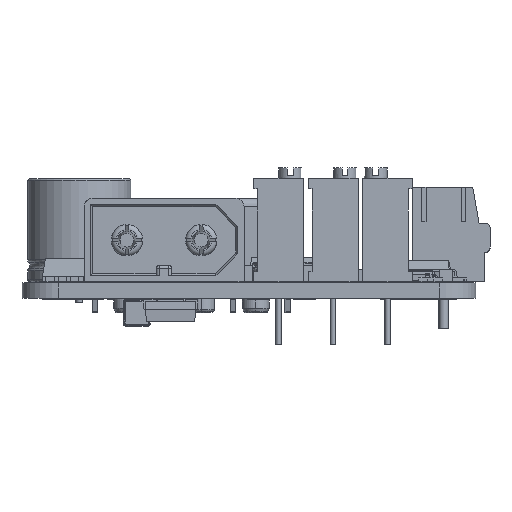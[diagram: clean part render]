
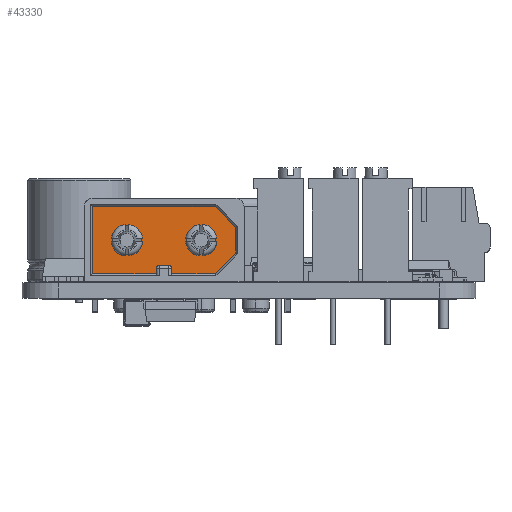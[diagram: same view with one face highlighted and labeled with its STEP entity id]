
A CAD part, left-side view. The second image highlights one B-rep face of the part: STEP entity #43330.
In plain terms, the highlighted planar face has unit normal (-1, 0, 0).
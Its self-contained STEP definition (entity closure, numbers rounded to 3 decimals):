
#39211 = EDGE_CURVE('',#39212,#39214,#39216,.T.);
#39212 = VERTEX_POINT('',#39213);
#39213 = CARTESIAN_POINT('',(-1.05,3.6,5.35));
#39214 = VERTEX_POINT('',#39215);
#39215 = CARTESIAN_POINT('',(-1.05,3.6,2.75));
#39216 = CIRCLE('',#39217,1.3);
#39217 = AXIS2_PLACEMENT_3D('',#39218,#39219,#39220);
#39218 = CARTESIAN_POINT('',(-1.05,3.6,4.05));
#39219 = DIRECTION('',(-1.,-0.,0.));
#39220 = DIRECTION('',(-0.,0.,-1.));
#39310 = EDGE_CURVE('',#39311,#39313,#39315,.T.);
#39311 = VERTEX_POINT('',#39312);
#39312 = CARTESIAN_POINT('',(-1.05,-3.6,2.75));
#39313 = VERTEX_POINT('',#39314);
#39314 = CARTESIAN_POINT('',(-1.05,-3.6,5.35));
#39315 = CIRCLE('',#39316,1.3);
#39316 = AXIS2_PLACEMENT_3D('',#39317,#39318,#39319);
#39317 = CARTESIAN_POINT('',(-1.05,-3.6,4.05));
#39318 = DIRECTION('',(1.,0.,-0.));
#39319 = DIRECTION('',(0.,0.,1.));
#41987 = EDGE_CURVE('',#39313,#39311,#41988,.T.);
#41988 = CIRCLE('',#41989,1.3);
#41989 = AXIS2_PLACEMENT_3D('',#41990,#41991,#41992);
#41990 = CARTESIAN_POINT('',(-1.05,-3.6,4.05));
#41991 = DIRECTION('',(1.,0.,-0.));
#41992 = DIRECTION('',(0.,0.,1.));
#42562 = EDGE_CURVE('',#39214,#39212,#42563,.T.);
#42563 = CIRCLE('',#42564,1.3);
#42564 = AXIS2_PLACEMENT_3D('',#42565,#42566,#42567);
#42565 = CARTESIAN_POINT('',(-1.05,3.6,4.05));
#42566 = DIRECTION('',(-1.,-0.,0.));
#42567 = DIRECTION('',(-0.,0.,-1.));
#43257 = VERTEX_POINT('',#43258);
#43258 = CARTESIAN_POINT('',(-1.05,-0.75,0.8));
#43273 = VERTEX_POINT('',#43274);
#43274 = CARTESIAN_POINT('',(-1.05,-4.95,0.8));
#43280 = EDGE_CURVE('',#43257,#43273,#43281,.T.);
#43281 = LINE('',#43282,#43283);
#43282 = CARTESIAN_POINT('',(-1.05,-4.95,0.8));
#43283 = VECTOR('',#43284,1.);
#43284 = DIRECTION('',(-0.,-1.,-0.));
#43295 = VERTEX_POINT('',#43296);
#43296 = CARTESIAN_POINT('',(-1.05,6.95,0.8));
#43313 = VERTEX_POINT('',#43314);
#43314 = CARTESIAN_POINT('',(-1.05,0.75,0.8));
#43320 = EDGE_CURVE('',#43295,#43313,#43321,.T.);
#43321 = LINE('',#43322,#43323);
#43322 = CARTESIAN_POINT('',(-1.05,-4.95,0.8));
#43323 = VECTOR('',#43324,1.);
#43324 = DIRECTION('',(-0.,-1.,-0.));
#43330 = ADVANCED_FACE('',(#43331,#43335,#43339),#43421,.F.);
#43331 = FACE_BOUND('',#43332,.T.);
#43332 = EDGE_LOOP('',(#43333,#43334));
#43333 = ORIENTED_EDGE('',*,*,#41987,.T.);
#43334 = ORIENTED_EDGE('',*,*,#39310,.T.);
#43335 = FACE_BOUND('',#43336,.T.);
#43336 = EDGE_LOOP('',(#43337,#43338));
#43337 = ORIENTED_EDGE('',*,*,#39211,.F.);
#43338 = ORIENTED_EDGE('',*,*,#42562,.F.);
#43339 = FACE_BOUND('',#43340,.T.);
#43340 = EDGE_LOOP('',(#43341,#43349,#43350,#43358,#43366,#43374,#43382,
    #43388,#43389,#43397,#43406,#43414));
#43341 = ORIENTED_EDGE('',*,*,#43342,.F.);
#43342 = EDGE_CURVE('',#43257,#43343,#43345,.T.);
#43343 = VERTEX_POINT('',#43344);
#43344 = CARTESIAN_POINT('',(-1.05,-0.75,1.3));
#43345 = LINE('',#43346,#43347);
#43346 = CARTESIAN_POINT('',(-1.05,-0.75,0.));
#43347 = VECTOR('',#43348,1.);
#43348 = DIRECTION('',(0.,-0.,1.));
#43349 = ORIENTED_EDGE('',*,*,#43280,.T.);
#43350 = ORIENTED_EDGE('',*,*,#43351,.T.);
#43351 = EDGE_CURVE('',#43273,#43352,#43354,.T.);
#43352 = VERTEX_POINT('',#43353);
#43353 = CARTESIAN_POINT('',(-1.05,-6.95,2.8));
#43354 = LINE('',#43355,#43356);
#43355 = CARTESIAN_POINT('',(-1.05,-4.95,0.8));
#43356 = VECTOR('',#43357,1.);
#43357 = DIRECTION('',(0.,-0.707,0.707));
#43358 = ORIENTED_EDGE('',*,*,#43359,.T.);
#43359 = EDGE_CURVE('',#43352,#43360,#43362,.T.);
#43360 = VERTEX_POINT('',#43361);
#43361 = CARTESIAN_POINT('',(-1.05,-6.95,5.3));
#43362 = LINE('',#43363,#43364);
#43363 = CARTESIAN_POINT('',(-1.05,-6.95,2.8));
#43364 = VECTOR('',#43365,1.);
#43365 = DIRECTION('',(0.,0.,1.));
#43366 = ORIENTED_EDGE('',*,*,#43367,.T.);
#43367 = EDGE_CURVE('',#43360,#43368,#43370,.T.);
#43368 = VERTEX_POINT('',#43369);
#43369 = CARTESIAN_POINT('',(-1.05,-4.95,7.3));
#43370 = LINE('',#43371,#43372);
#43371 = CARTESIAN_POINT('',(-1.05,-6.95,5.3));
#43372 = VECTOR('',#43373,1.);
#43373 = DIRECTION('',(0.,0.707,0.707));
#43374 = ORIENTED_EDGE('',*,*,#43375,.T.);
#43375 = EDGE_CURVE('',#43368,#43376,#43378,.T.);
#43376 = VERTEX_POINT('',#43377);
#43377 = CARTESIAN_POINT('',(-1.05,6.95,7.3));
#43378 = LINE('',#43379,#43380);
#43379 = CARTESIAN_POINT('',(-1.05,-4.95,7.3));
#43380 = VECTOR('',#43381,1.);
#43381 = DIRECTION('',(0.,1.,0.));
#43382 = ORIENTED_EDGE('',*,*,#43383,.T.);
#43383 = EDGE_CURVE('',#43376,#43295,#43384,.T.);
#43384 = LINE('',#43385,#43386);
#43385 = CARTESIAN_POINT('',(-1.05,6.95,0.8));
#43386 = VECTOR('',#43387,1.);
#43387 = DIRECTION('',(-0.,-0.,-1.));
#43388 = ORIENTED_EDGE('',*,*,#43320,.T.);
#43389 = ORIENTED_EDGE('',*,*,#43390,.F.);
#43390 = EDGE_CURVE('',#43391,#43313,#43393,.T.);
#43391 = VERTEX_POINT('',#43392);
#43392 = CARTESIAN_POINT('',(-1.05,0.75,1.3));
#43393 = LINE('',#43394,#43395);
#43394 = CARTESIAN_POINT('',(-1.05,0.75,1.6));
#43395 = VECTOR('',#43396,1.);
#43396 = DIRECTION('',(0.,0.,-1.));
#43397 = ORIENTED_EDGE('',*,*,#43398,.T.);
#43398 = EDGE_CURVE('',#43391,#43399,#43401,.T.);
#43399 = VERTEX_POINT('',#43400);
#43400 = CARTESIAN_POINT('',(-1.05,0.45,1.6));
#43401 = CIRCLE('',#43402,0.3);
#43402 = AXIS2_PLACEMENT_3D('',#43403,#43404,#43405);
#43403 = CARTESIAN_POINT('',(-1.05,0.45,1.3));
#43404 = DIRECTION('',(1.,0.,0.));
#43405 = DIRECTION('',(0.,-0.,-1.));
#43406 = ORIENTED_EDGE('',*,*,#43407,.F.);
#43407 = EDGE_CURVE('',#43408,#43399,#43410,.T.);
#43408 = VERTEX_POINT('',#43409);
#43409 = CARTESIAN_POINT('',(-1.05,-0.45,1.6));
#43410 = LINE('',#43411,#43412);
#43411 = CARTESIAN_POINT('',(-1.05,0.75,1.6));
#43412 = VECTOR('',#43413,1.);
#43413 = DIRECTION('',(-0.,1.,-0.));
#43414 = ORIENTED_EDGE('',*,*,#43415,.T.);
#43415 = EDGE_CURVE('',#43408,#43343,#43416,.T.);
#43416 = CIRCLE('',#43417,0.3);
#43417 = AXIS2_PLACEMENT_3D('',#43418,#43419,#43420);
#43418 = CARTESIAN_POINT('',(-1.05,-0.45,1.3));
#43419 = DIRECTION('',(1.,0.,0.));
#43420 = DIRECTION('',(0.,-0.,-1.));
#43421 = PLANE('',#43422);
#43422 = AXIS2_PLACEMENT_3D('',#43423,#43424,#43425);
#43423 = CARTESIAN_POINT('',(-1.05,0.,0.));
#43424 = DIRECTION('',(1.,0.,-0.));
#43425 = DIRECTION('',(-0.,0.,-1.));
